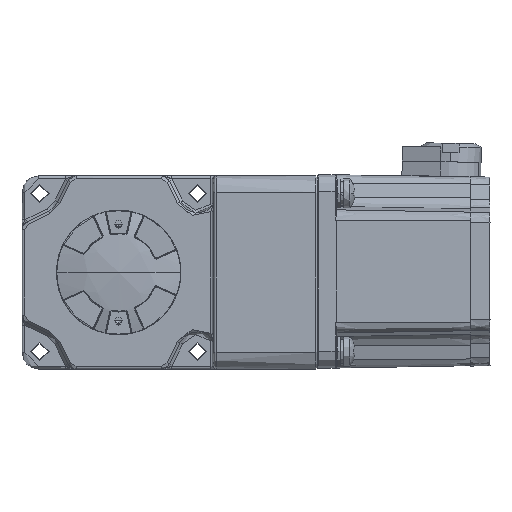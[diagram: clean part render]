
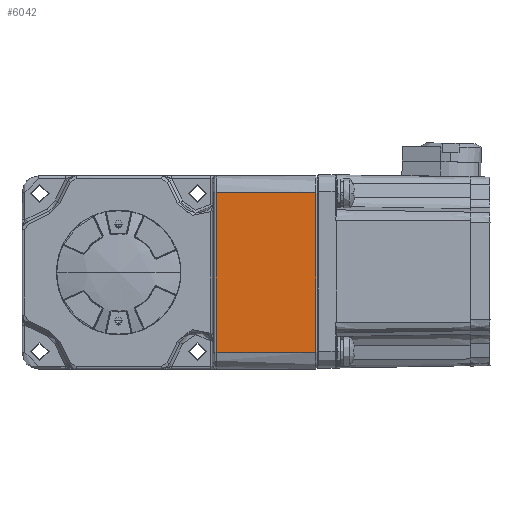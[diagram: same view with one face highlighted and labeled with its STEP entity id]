
A CAD part, front view. The second image highlights one B-rep face of the part: STEP entity #6042.
In plain terms, the highlighted planar face has unit normal (0, -1, 0) as drawn and (0, 1, 0) by its records, which use the part's own axes.
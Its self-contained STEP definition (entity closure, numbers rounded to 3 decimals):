
#6042 = ADVANCED_FACE ( 'NONE', ( #50129 ), #50130, .F. ) ;
#23077 = VERTEX_POINT ( 'NONE', #70909 ) ;
#23518 = VERTEX_POINT ( 'NONE', #54568 ) ;
#23643 = VERTEX_POINT ( 'NONE', #34691 ) ;
#24591 = VERTEX_POINT ( 'NONE', #98318 ) ;
#29222 = LINE ( 'NONE', #29223, #70959 ) ;
#29223 = CARTESIAN_POINT ( 'NONE',  ( 2966.381, -721.453, 42.808 ) ) ;
#29228 = DIRECTION ( 'NONE',  ( 0., 0., -1. ) ) ;
#29956 = LINE ( 'NONE', #29957, #70872 ) ;
#29957 = CARTESIAN_POINT ( 'NONE',  ( 2966.381, -721.453, 42.808 ) ) ;
#29992 = DIRECTION ( 'NONE',  ( -1., 0., 0. ) ) ;
#30027 = LINE ( 'NONE', #30030, #70867 ) ;
#30030 = CARTESIAN_POINT ( 'NONE',  ( 3019.881, -721.453, 51.808 ) ) ;
#30032 = DIRECTION ( 'NONE',  ( 0., 0., -1. ) ) ;
#31190 = LINE ( 'NONE', #31191, #66427 ) ;
#31191 = CARTESIAN_POINT ( 'NONE',  ( -5997033.619, -721.453, -43.192 ) ) ;
#31192 = DIRECTION ( 'NONE',  ( 1., 0., 0. ) ) ;
#34691 = CARTESIAN_POINT ( 'NONE',  ( 3019.881, -721.453, 42.808 ) ) ;
#44708 = AXIS2_PLACEMENT_3D ( 'NONE', #50122, #50133, #50134 ) ;
#50122 = CARTESIAN_POINT ( 'NONE',  ( 2966.381, -721.453, 42.808 ) ) ;
#50129 = FACE_OUTER_BOUND ( 'NONE', #71752, .T. ) ;
#50130 = PLANE ( 'NONE',  #44708 ) ;
#50133 = DIRECTION ( 'NONE',  ( 0., -1., 0. ) ) ;
#50134 = DIRECTION ( 'NONE',  ( 0., 0., -1. ) ) ;
#54568 = CARTESIAN_POINT ( 'NONE',  ( 3019.881, -721.453, -43.192 ) ) ;
#66427 = VECTOR ( 'NONE', #31192, 1000. ) ;
#70867 = VECTOR ( 'NONE', #30032, 1000. ) ;
#70872 = VECTOR ( 'NONE', #29992, 1000. ) ;
#70909 = CARTESIAN_POINT ( 'NONE',  ( 2966.381, -721.453, -43.192 ) ) ;
#70959 = VECTOR ( 'NONE', #29228, 1000. ) ;
#71752 = EDGE_LOOP ( 'NONE', ( #88093, #89299, #89027, #88251 ) ) ;
#80596 = EDGE_CURVE ( 'NONE', #24591, #23077, #29222, .T. ) ;
#80818 = EDGE_CURVE ( 'NONE', #23643, #24591, #29956, .T. ) ;
#80838 = EDGE_CURVE ( 'NONE', #23643, #23518, #30027, .T. ) ;
#81050 = EDGE_CURVE ( 'NONE', #23077, #23518, #31190, .T. ) ;
#88093 = ORIENTED_EDGE ( 'NONE', *, *, #80838, .T. ) ;
#88251 = ORIENTED_EDGE ( 'NONE', *, *, #80818, .F. ) ;
#89027 = ORIENTED_EDGE ( 'NONE', *, *, #80596, .F. ) ;
#89299 = ORIENTED_EDGE ( 'NONE', *, *, #81050, .F. ) ;
#98318 = CARTESIAN_POINT ( 'NONE',  ( 2966.381, -721.453, 42.808 ) ) ;
